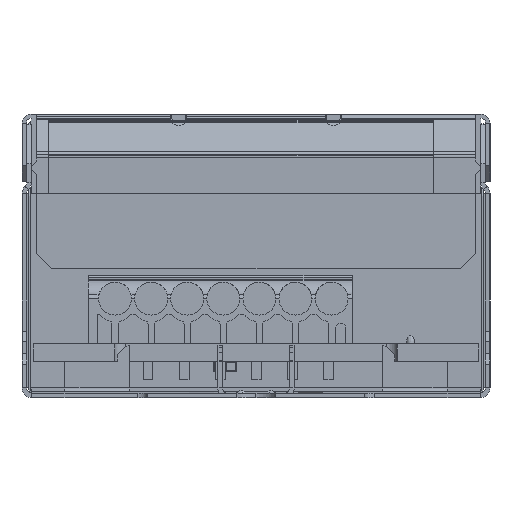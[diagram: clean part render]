
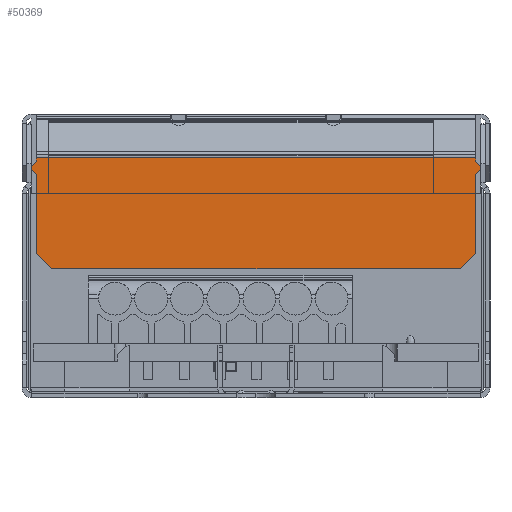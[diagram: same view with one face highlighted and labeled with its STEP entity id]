
A CAD part, left-side view. The second image highlights one B-rep face of the part: STEP entity #50369.
In plain terms, the highlighted planar face has unit normal (-1, 0, 0).
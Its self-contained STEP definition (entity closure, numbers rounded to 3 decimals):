
#421 = LINE ( 'NONE', #39224, #68312 ) ;
#980 = DIRECTION ( 'NONE',  ( 1., 0., 0. ) ) ;
#1586 = CARTESIAN_POINT ( 'NONE',  ( -153.515, -21.8, 21.672 ) ) ;
#1976 = VERTEX_POINT ( 'NONE', #47014 ) ;
#2064 = ORIENTED_EDGE ( 'NONE', *, *, #48336, .F. ) ;
#2323 = CARTESIAN_POINT ( 'NONE',  ( -153.515, 19.8, 12.056 ) ) ;
#3914 = VERTEX_POINT ( 'NONE', #8756 ) ;
#4266 = LINE ( 'NONE', #15632, #5464 ) ;
#4403 = VERTEX_POINT ( 'NONE', #1586 ) ;
#5464 = VECTOR ( 'NONE', #37973, 1000. ) ;
#6454 = CARTESIAN_POINT ( 'NONE',  ( -153.515, 0., 177.923 ) ) ;
#6772 = EDGE_CURVE ( 'NONE', #33968, #1976, #14241, .T. ) ;
#6806 = EDGE_CURVE ( 'NONE', #61240, #29032, #69208, .T. ) ;
#8495 = VECTOR ( 'NONE', #8937, 1000. ) ;
#8517 = CARTESIAN_POINT ( 'NONE',  ( -153.515, -21.3, 22.473 ) ) ;
#8566 = CARTESIAN_POINT ( 'NONE',  ( -153.515, 21.3, 13.556 ) ) ;
#8756 = CARTESIAN_POINT ( 'NONE',  ( -153.515, 21.8, 21.672 ) ) ;
#8937 = DIRECTION ( 'NONE',  ( 0., -0.707, -0.707 ) ) ;
#8989 = VERTEX_POINT ( 'NONE', #67631 ) ;
#10291 = EDGE_CURVE ( 'NONE', #17857, #33968, #421, .T. ) ;
#11946 = DIRECTION ( 'NONE',  ( 0., 0., -1. ) ) ;
#13498 = CARTESIAN_POINT ( 'NONE',  ( -153.515, -21.3, 22.836 ) ) ;
#14241 = LINE ( 'NONE', #30040, #70238 ) ;
#14580 = CARTESIAN_POINT ( 'NONE',  ( -153.515, -21.3, 22.473 ) ) ;
#14605 = CARTESIAN_POINT ( 'NONE',  ( -153.515, 28.5, 12.056 ) ) ;
#15088 = CARTESIAN_POINT ( 'NONE',  ( -153.515, -21.95, 21.823 ) ) ;
#15632 = CARTESIAN_POINT ( 'NONE',  ( -153.515, 0., 22.836 ) ) ;
#15802 = DIRECTION ( 'NONE',  ( 0., 0., 1. ) ) ;
#17857 = VERTEX_POINT ( 'NONE', #30855 ) ;
#18040 = CARTESIAN_POINT ( 'NONE',  ( -153.515, -19.8, 12.056 ) ) ;
#18168 = VERTEX_POINT ( 'NONE', #43775 ) ;
#18691 = ORIENTED_EDGE ( 'NONE', *, *, #35882, .F. ) ;
#18902 = EDGE_CURVE ( 'NONE', #4403, #18168, #50504, .T. ) ;
#19818 = ORIENTED_EDGE ( 'NONE', *, *, #28883, .F. ) ;
#20700 = LINE ( 'NONE', #25460, #49215 ) ;
#21124 = VECTOR ( 'NONE', #35907, 1000. ) ;
#21358 = LINE ( 'NONE', #21724, #63337 ) ;
#21724 = CARTESIAN_POINT ( 'NONE',  ( -153.515, 21.3, 12.056 ) ) ;
#22709 = EDGE_CURVE ( 'NONE', #29032, #8989, #20700, .T. ) ;
#22733 = EDGE_CURVE ( 'NONE', #4403, #72405, #61233, .T. ) ;
#23903 = CARTESIAN_POINT ( 'NONE',  ( -153.515, -21.3, 21.173 ) ) ;
#23908 = CARTESIAN_POINT ( 'NONE',  ( -153.515, 21.3, 22.473 ) ) ;
#25084 = ORIENTED_EDGE ( 'NONE', *, *, #61278, .F. ) ;
#25345 = EDGE_LOOP ( 'NONE', ( #67938, #58062, #60775, #25084, #41822, #50284, #58653, #18691, #34369, #50543, #2064, #45675, #19818, #25870 ) ) ;
#25460 = CARTESIAN_POINT ( 'NONE',  ( -153.515, -19.8, 12.056 ) ) ;
#25870 = ORIENTED_EDGE ( 'NONE', *, *, #6772, .F. ) ;
#26541 = VERTEX_POINT ( 'NONE', #62482 ) ;
#26639 = VECTOR ( 'NONE', #67165, 1000. ) ;
#28883 = EDGE_CURVE ( 'NONE', #1976, #35922, #4266, .T. ) ;
#29032 = VERTEX_POINT ( 'NONE', #18040 ) ;
#29812 = EDGE_CURVE ( 'NONE', #26541, #3914, #44142, .T. ) ;
#30040 = CARTESIAN_POINT ( 'NONE',  ( -153.515, 21.3, 22.473 ) ) ;
#30855 = CARTESIAN_POINT ( 'NONE',  ( -153.515, 21.8, 21.973 ) ) ;
#30884 = DIRECTION ( 'NONE',  ( 0., -0.707, -0.707 ) ) ;
#32585 = VECTOR ( 'NONE', #34024, 1000. ) ;
#32645 = CARTESIAN_POINT ( 'NONE',  ( -153.515, -21.8, -22.513 ) ) ;
#33968 = VERTEX_POINT ( 'NONE', #23908 ) ;
#34024 = DIRECTION ( 'NONE',  ( 0., 0., -1. ) ) ;
#34369 = ORIENTED_EDGE ( 'NONE', *, *, #22733, .F. ) ;
#35043 = PLANE ( 'NONE',  #48025 ) ;
#35882 = EDGE_CURVE ( 'NONE', #72405, #8989, #67706, .T. ) ;
#35907 = DIRECTION ( 'NONE',  ( 0., -1., 0. ) ) ;
#35922 = VERTEX_POINT ( 'NONE', #13498 ) ;
#37973 = DIRECTION ( 'NONE',  ( 0., -1., 0. ) ) ;
#39224 = CARTESIAN_POINT ( 'NONE',  ( -153.515, 21.95, 21.823 ) ) ;
#39498 = VECTOR ( 'NONE', #62053, 1000. ) ;
#39750 = CARTESIAN_POINT ( 'NONE',  ( -153.515, 21.3, 21.173 ) ) ;
#41822 = ORIENTED_EDGE ( 'NONE', *, *, #42820, .T. ) ;
#42225 = DIRECTION ( 'NONE',  ( 0., -0.707, 0.707 ) ) ;
#42562 = DIRECTION ( 'NONE',  ( 0., 0., 1. ) ) ;
#42751 = LINE ( 'NONE', #14580, #47967 ) ;
#42820 = EDGE_CURVE ( 'NONE', #66045, #61240, #64223, .T. ) ;
#43685 = DIRECTION ( 'NONE',  ( 0., 0.707, -0.707 ) ) ;
#43775 = CARTESIAN_POINT ( 'NONE',  ( -153.515, -21.8, 21.973 ) ) ;
#44142 = LINE ( 'NONE', #39750, #39498 ) ;
#44774 = LINE ( 'NONE', #66435, #26639 ) ;
#45252 = FACE_OUTER_BOUND ( 'NONE', #25345, .T. ) ;
#45675 = ORIENTED_EDGE ( 'NONE', *, *, #59862, .F. ) ;
#47014 = CARTESIAN_POINT ( 'NONE',  ( -153.515, 21.3, 22.836 ) ) ;
#47731 = EDGE_CURVE ( 'NONE', #17857, #3914, #44774, .T. ) ;
#47967 = VECTOR ( 'NONE', #70628, 1000. ) ;
#48025 = AXIS2_PLACEMENT_3D ( 'NONE', #6454, #980, #11946 ) ;
#48336 = EDGE_CURVE ( 'NONE', #58270, #18168, #71119, .T. ) ;
#49215 = VECTOR ( 'NONE', #42225, 1000. ) ;
#50284 = ORIENTED_EDGE ( 'NONE', *, *, #6806, .T. ) ;
#50369 = ADVANCED_FACE ( 'NONE', ( #45252 ), #35043, .F. ) ;
#50504 = LINE ( 'NONE', #32645, #62300 ) ;
#50543 = ORIENTED_EDGE ( 'NONE', *, *, #18902, .T. ) ;
#57335 = VECTOR ( 'NONE', #43685, 1000. ) ;
#58062 = ORIENTED_EDGE ( 'NONE', *, *, #47731, .T. ) ;
#58270 = VERTEX_POINT ( 'NONE', #8517 ) ;
#58653 = ORIENTED_EDGE ( 'NONE', *, *, #22709, .T. ) ;
#59360 = VECTOR ( 'NONE', #30884, 1000. ) ;
#59862 = EDGE_CURVE ( 'NONE', #35922, #58270, #42751, .T. ) ;
#60775 = ORIENTED_EDGE ( 'NONE', *, *, #29812, .F. ) ;
#61233 = LINE ( 'NONE', #66420, #57335 ) ;
#61240 = VERTEX_POINT ( 'NONE', #2323 ) ;
#61278 = EDGE_CURVE ( 'NONE', #66045, #26541, #21358, .T. ) ;
#62053 = DIRECTION ( 'NONE',  ( 0., 0.707, 0.707 ) ) ;
#62300 = VECTOR ( 'NONE', #15802, 1000. ) ;
#62482 = CARTESIAN_POINT ( 'NONE',  ( -153.515, 21.3, 21.173 ) ) ;
#63337 = VECTOR ( 'NONE', #42562, 1000. ) ;
#64223 = LINE ( 'NONE', #8566, #8495 ) ;
#66045 = VERTEX_POINT ( 'NONE', #69398 ) ;
#66420 = CARTESIAN_POINT ( 'NONE',  ( -153.515, -21.3, 21.173 ) ) ;
#66435 = CARTESIAN_POINT ( 'NONE',  ( -153.515, 21.8, -22.513 ) ) ;
#67165 = DIRECTION ( 'NONE',  ( 0., 0., -1. ) ) ;
#67631 = CARTESIAN_POINT ( 'NONE',  ( -153.515, -21.3, 13.556 ) ) ;
#67706 = LINE ( 'NONE', #68465, #32585 ) ;
#67938 = ORIENTED_EDGE ( 'NONE', *, *, #10291, .F. ) ;
#68159 = DIRECTION ( 'NONE',  ( 0., -0.707, 0.707 ) ) ;
#68312 = VECTOR ( 'NONE', #68159, 1000. ) ;
#68465 = CARTESIAN_POINT ( 'NONE',  ( -153.515, -21.3, 12.056 ) ) ;
#69208 = LINE ( 'NONE', #14605, #21124 ) ;
#69398 = CARTESIAN_POINT ( 'NONE',  ( -153.515, 21.3, 13.556 ) ) ;
#69577 = DIRECTION ( 'NONE',  ( 0., 0., 1. ) ) ;
#70238 = VECTOR ( 'NONE', #69577, 1000. ) ;
#70628 = DIRECTION ( 'NONE',  ( 0., 0., -1. ) ) ;
#71119 = LINE ( 'NONE', #15088, #59360 ) ;
#72405 = VERTEX_POINT ( 'NONE', #23903 ) ;
